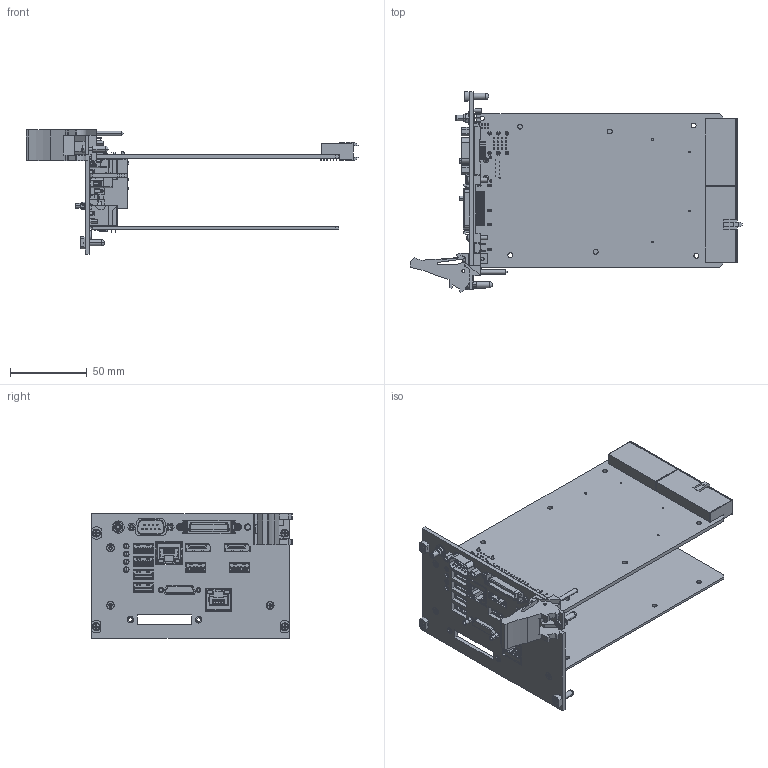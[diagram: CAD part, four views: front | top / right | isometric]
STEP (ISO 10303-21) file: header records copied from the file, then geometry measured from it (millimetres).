
FILE_DESCRIPTION((''),'2;1');
FILE_NAME('CU_PXI-8119','2015-04-01T',('kleong'),(''),'PRO/ENGINEER BY PARAMETRIC TECHNOLOGY CORPORATION, 2014000','PRO/ENGINEER BY PARAMETRIC TECHNOLOGY CORPORATION, 2014000','');
FILE_SCHEMA(('CONFIG_CONTROL_DESIGN'));
Products named in the file (1): CU_PXI-8119
Bounding box: 216.09 x 130.56 x 81.05 mm (x, y, z)
Volume: 140100.2 mm3; surface area: 131078.8 mm2
Topology: 9 solids, 12 shells, 5847 faces, 16339 edges, 10630 vertices
Faces by surface type: plane 4092, cylinder 1435, bspline 158, cone 74, sphere 38, extrusion 28, torus 22
Entity records: 198242 total; most frequent: CARTESIAN_POINT 46098, ORIENTED_EDGE 32566, DIRECTION 29990, EDGE_CURVE 16283, VECTOR 12326, LINE 12298, VERTEX_POINT 10744, AXIS2_PLACEMENT_3D 8832
